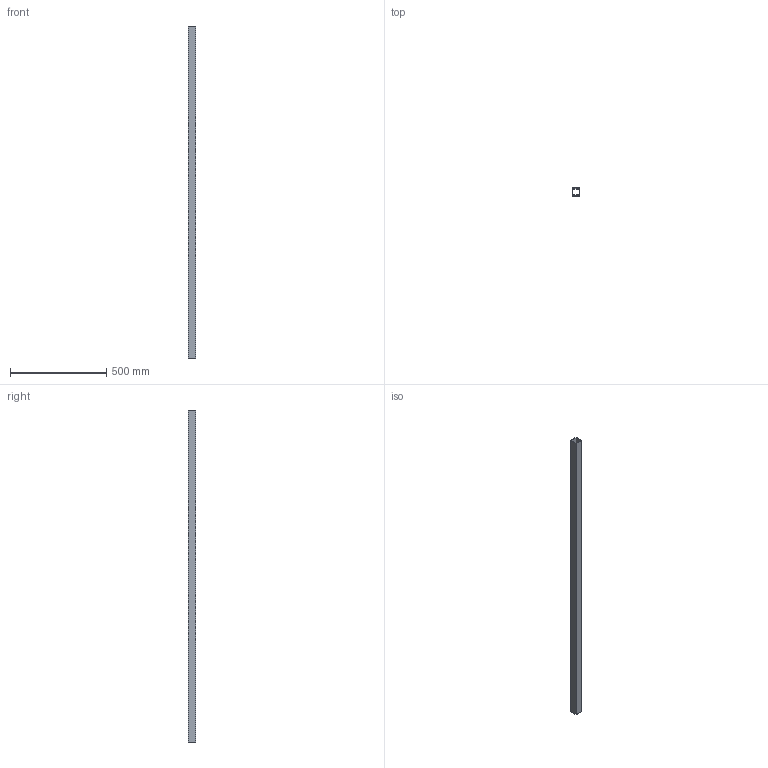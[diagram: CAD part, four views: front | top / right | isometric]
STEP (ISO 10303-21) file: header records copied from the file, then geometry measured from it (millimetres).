
FILE_DESCRIPTION(('Open CASCADE Model'),'2;1');
FILE_NAME('Open CASCADE Shape Model','2026-10-19T10:09:27',('Author'),( 'Open CASCADE'),'Open CASCADE STEP processor 8.0','Open CASCADE 8.0' ,'Unknown');
FILE_SCHEMA(('AUTOMOTIVE_DESIGN { 1 0 10303 214 1 1 1 1 }'));
Length unit declared in the file: millimetre
Products named in the file (1): AC_SHS40x40x3_L1725000 185
Bounding box: 40 x 40 x 1725 mm (x, y, z)
Volume: 765900 mm3; surface area: 511488 mm2
Topology: 1 solids, 1 shells, 10 faces, 24 edges, 16 vertices
Faces by surface type: plane 10
Entity records: 614 total; most frequent: CARTESIAN_POINT 99, DIRECTION 94, LINE 72, VECTOR 72, ORIENTED_EDGE 48, PCURVE 48, DEFINITIONAL_REPRESENTATION 48, EDGE_CURVE 24
